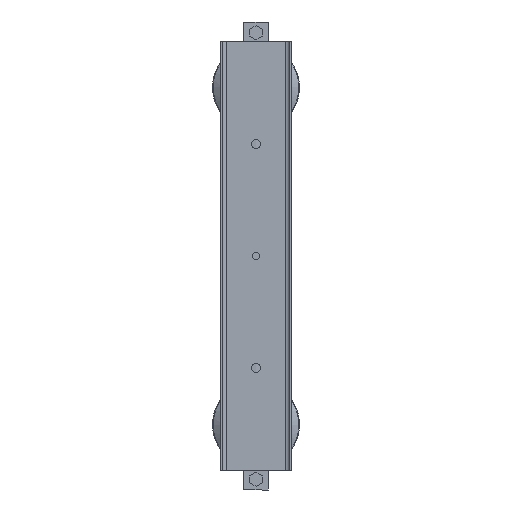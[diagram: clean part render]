
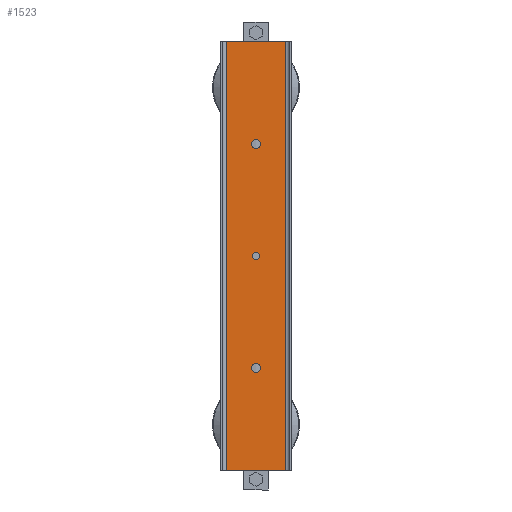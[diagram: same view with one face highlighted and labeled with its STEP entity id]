
A CAD part, front view. The second image highlights one B-rep face of the part: STEP entity #1523.
In plain terms, the highlighted planar face has unit normal (0, -1, 0).
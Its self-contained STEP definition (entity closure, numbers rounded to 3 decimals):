
#126 = EDGE_CURVE ( 'NONE', #2024, #739, #3096, .T. ) ;
#168 = DIRECTION ( 'NONE',  ( -1., 0., 0. ) ) ;
#205 = DIRECTION ( 'NONE',  ( 0., -1., 0. ) ) ;
#248 = CARTESIAN_POINT ( 'NONE',  ( 0., -3., 157.5 ) ) ;
#251 = CARTESIAN_POINT ( 'NONE',  ( -42., -3., 302.5 ) ) ;
#267 = CARTESIAN_POINT ( 'NONE',  ( -42., -3., -302.5 ) ) ;
#364 = CARTESIAN_POINT ( 'NONE',  ( 0., -3., 0. ) ) ;
#394 = CARTESIAN_POINT ( 'NONE',  ( 42., -3., -302.5 ) ) ;
#431 = DIRECTION ( 'NONE',  ( 0., 0., 1. ) ) ;
#442 = CARTESIAN_POINT ( 'NONE',  ( 42., -3., 302.5 ) ) ;
#739 = VERTEX_POINT ( 'NONE', #442 ) ;
#781 = VECTOR ( 'NONE', #431, 1000. ) ;
#814 = VERTEX_POINT ( 'NONE', #5640 ) ;
#846 = DIRECTION ( 'NONE',  ( 1., 0., 0. ) ) ;
#868 = DIRECTION ( 'NONE',  ( 0., -1., 0. ) ) ;
#880 = AXIS2_PLACEMENT_3D ( 'NONE', #364, #3627, #846 ) ;
#989 = CIRCLE ( 'NONE', #4430, 6.25 ) ;
#1094 = EDGE_CURVE ( 'NONE', #3500, #3500, #3374, .T. ) ;
#1406 = VERTEX_POINT ( 'NONE', #251 ) ;
#1421 = EDGE_LOOP ( 'NONE', ( #4708 ) ) ;
#1523 = ADVANCED_FACE ( 'NONE', ( #2398, #3766, #3490, #2259 ), #4177, .F. ) ;
#1543 = VERTEX_POINT ( 'NONE', #2823 ) ;
#1571 = EDGE_LOOP ( 'NONE', ( #4722 ) ) ;
#1595 = EDGE_CURVE ( 'NONE', #2510, #1406, #4426, .T. ) ;
#1620 = LINE ( 'NONE', #4443, #5150 ) ;
#1621 = EDGE_LOOP ( 'NONE', ( #4714 ) ) ;
#1624 = CARTESIAN_POINT ( 'NONE',  ( 42., -3., -302.5 ) ) ;
#1678 = AXIS2_PLACEMENT_3D ( 'NONE', #248, #205, #168 ) ;
#1703 = EDGE_LOOP ( 'NONE', ( #4727, #4750, #4800, #4805 ) ) ;
#1982 = EDGE_CURVE ( 'NONE', #2024, #2510, #4561, .T. ) ;
#2024 = VERTEX_POINT ( 'NONE', #1624 ) ;
#2096 = DIRECTION ( 'NONE',  ( -1., 0., 0. ) ) ;
#2259 = FACE_OUTER_BOUND ( 'NONE', #1703, .T. ) ;
#2398 = FACE_BOUND ( 'NONE', #1421, .T. ) ;
#2510 = VERTEX_POINT ( 'NONE', #5942 ) ;
#2823 = CARTESIAN_POINT ( 'NONE',  ( -6.25, -3., -157.5 ) ) ;
#2917 = CIRCLE ( 'NONE', #880, 5. ) ;
#2996 = CARTESIAN_POINT ( 'NONE',  ( -42., -3., -302.5 ) ) ;
#3096 = LINE ( 'NONE', #394, #781 ) ;
#3243 = EDGE_CURVE ( 'NONE', #1543, #1543, #989, .T. ) ;
#3325 = VECTOR ( 'NONE', #2096, 1000. ) ;
#3374 = CIRCLE ( 'NONE', #1678, 6.25 ) ;
#3490 = FACE_BOUND ( 'NONE', #1571, .T. ) ;
#3500 = VERTEX_POINT ( 'NONE', #4632 ) ;
#3627 = DIRECTION ( 'NONE',  ( 0., -1., 0. ) ) ;
#3643 = CARTESIAN_POINT ( 'NONE',  ( 0., -3., -157.5 ) ) ;
#3766 = FACE_BOUND ( 'NONE', #1621, .T. ) ;
#4097 = DIRECTION ( 'NONE',  ( -1., 0., 0. ) ) ;
#4177 = PLANE ( 'NONE',  #5574 ) ;
#4264 = VECTOR ( 'NONE', #5758, 1000. ) ;
#4426 = LINE ( 'NONE', #267, #4264 ) ;
#4430 = AXIS2_PLACEMENT_3D ( 'NONE', #3643, #868, #4097 ) ;
#4443 = CARTESIAN_POINT ( 'NONE',  ( -42., -3., 302.5 ) ) ;
#4561 = LINE ( 'NONE', #2996, #3325 ) ;
#4632 = CARTESIAN_POINT ( 'NONE',  ( -6.25, -3., 157.5 ) ) ;
#4648 = DIRECTION ( 'NONE',  ( 1., 0., 0. ) ) ;
#4708 = ORIENTED_EDGE ( 'NONE', *, *, #5106, .F. ) ;
#4714 = ORIENTED_EDGE ( 'NONE', *, *, #3243, .F. ) ;
#4722 = ORIENTED_EDGE ( 'NONE', *, *, #1094, .F. ) ;
#4727 = ORIENTED_EDGE ( 'NONE', *, *, #5744, .T. ) ;
#4750 = ORIENTED_EDGE ( 'NONE', *, *, #1595, .F. ) ;
#4800 = ORIENTED_EDGE ( 'NONE', *, *, #1982, .F. ) ;
#4805 = ORIENTED_EDGE ( 'NONE', *, *, #126, .T. ) ;
#4923 = DIRECTION ( 'NONE',  ( -1., 0., 0. ) ) ;
#5094 = DIRECTION ( 'NONE',  ( 0., 1., 0. ) ) ;
#5106 = EDGE_CURVE ( 'NONE', #814, #814, #2917, .T. ) ;
#5150 = VECTOR ( 'NONE', #4923, 1000. ) ;
#5561 = CARTESIAN_POINT ( 'NONE',  ( -42., -3., -302.5 ) ) ;
#5574 = AXIS2_PLACEMENT_3D ( 'NONE', #5561, #5094, #4648 ) ;
#5640 = CARTESIAN_POINT ( 'NONE',  ( 5., -3., 0. ) ) ;
#5744 = EDGE_CURVE ( 'NONE', #739, #1406, #1620, .T. ) ;
#5758 = DIRECTION ( 'NONE',  ( 0., 0., 1. ) ) ;
#5942 = CARTESIAN_POINT ( 'NONE',  ( -42., -3., -302.5 ) ) ;
